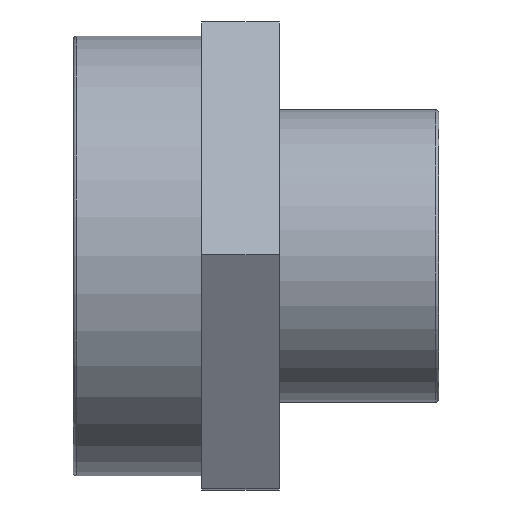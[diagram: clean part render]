
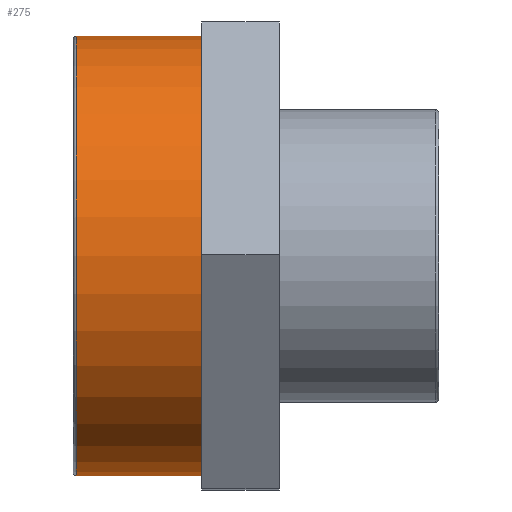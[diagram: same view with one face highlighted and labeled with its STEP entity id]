
A CAD part, top view. The second image highlights one B-rep face of the part: STEP entity #275.
In plain terms, the highlighted cylindrical face has radius 56.515 mm (diameter 113.03 mm), a full revolution.
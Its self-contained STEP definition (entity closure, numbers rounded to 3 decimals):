
#18=CYLINDRICAL_SURFACE('',#307,56.515);
#28=FACE_BOUND('',#92,.T.);
#42=CIRCLE('',#306,56.515);
#43=CIRCLE('',#308,56.515);
#63=FACE_OUTER_BOUND('',#91,.T.);
#91=EDGE_LOOP('',(#231));
#92=EDGE_LOOP('',(#232));
#157=VERTEX_POINT('',#460);
#158=VERTEX_POINT('',#463);
#187=EDGE_CURVE('',#157,#157,#42,.T.);
#188=EDGE_CURVE('',#158,#158,#43,.T.);
#231=ORIENTED_EDGE('',*,*,#188,.T.);
#232=ORIENTED_EDGE('',*,*,#187,.F.);
#275=ADVANCED_FACE('',(#63,#28),#18,.T.);
#306=AXIS2_PLACEMENT_3D('',#461,#382,#383);
#307=AXIS2_PLACEMENT_3D('',#462,#384,#385);
#308=AXIS2_PLACEMENT_3D('',#464,#386,#387);
#382=DIRECTION('center_axis',(-1.,0.,0.));
#383=DIRECTION('ref_axis',(0.,1.,0.));
#384=DIRECTION('center_axis',(-1.,0.,0.));
#385=DIRECTION('ref_axis',(0.,-1.,0.));
#386=DIRECTION('center_axis',(-1.,0.,0.));
#387=DIRECTION('ref_axis',(0.,0.,1.));
#460=CARTESIAN_POINT('',(-46.248,-56.515,0.));
#461=CARTESIAN_POINT('Origin',(-46.248,0.,0.));
#462=CARTESIAN_POINT('Origin',(-30.5,0.,0.));
#463=CARTESIAN_POINT('',(-14.,-56.515,0.));
#464=CARTESIAN_POINT('Origin',(-14.,0.,0.));
